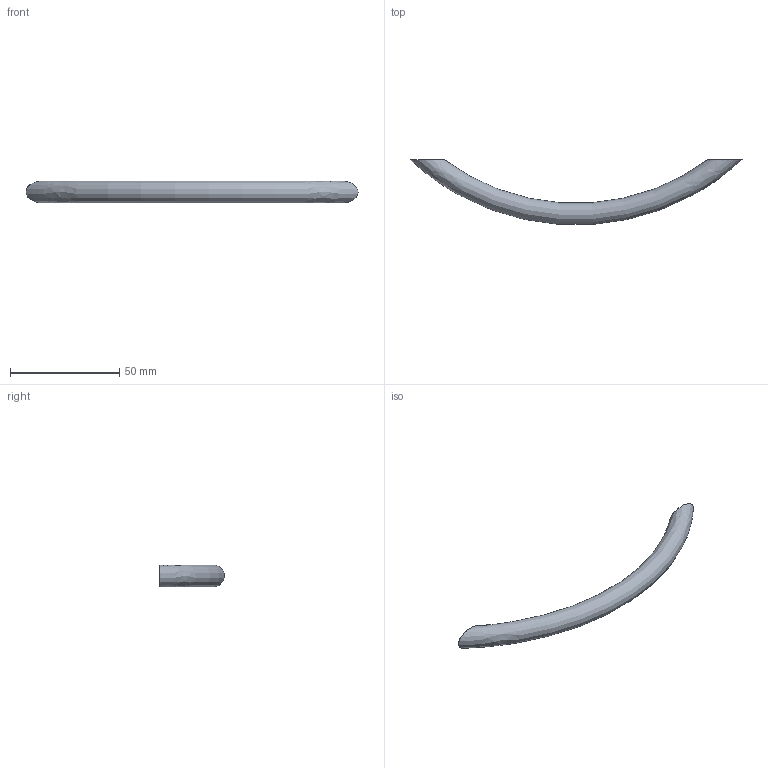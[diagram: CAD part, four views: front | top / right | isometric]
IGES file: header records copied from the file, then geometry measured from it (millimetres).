
Start section: Data from Parasolid IGES Translator 15.0.47, Copyright(c) 2006 Siemens P LM Software. All Rights Reserved.
Global section: file name:  9070501.igs; native system:  By UGS Corp.; preprocessor: XPlus GENERIC/IGES 3.0; author: Noname; organization: Noname; date: 20140122.155204; units: millimetre
Bounding box: 151.99 x 29.65 x 10 mm (x, y, z)
Surface area: 5063.1 mm2 (no closed solid volume)
Topology: 0 solids, 0 shells, 7 faces, 18 edges, 14 vertices
Faces by surface type: extrusion 4, revolution 3
